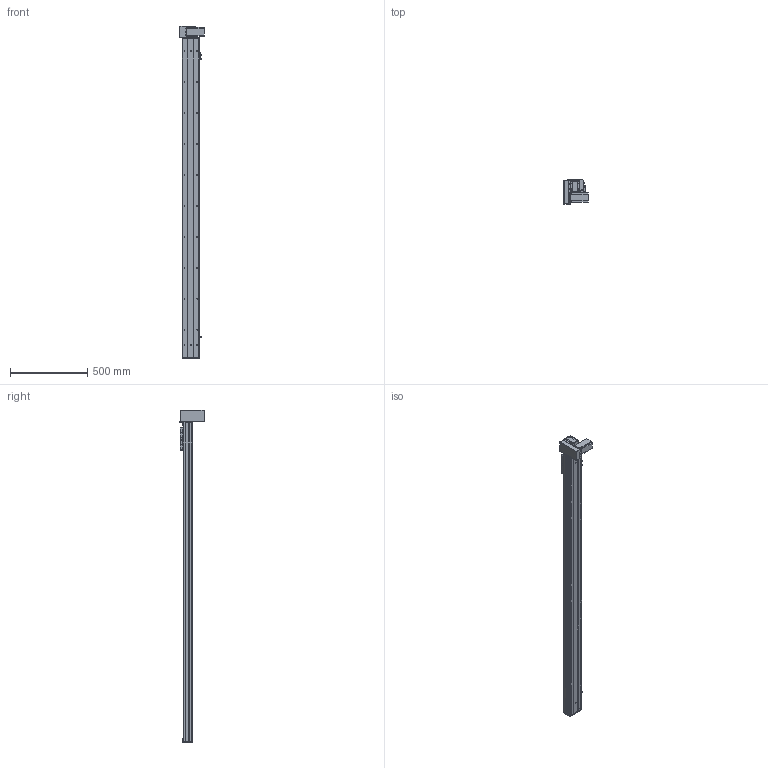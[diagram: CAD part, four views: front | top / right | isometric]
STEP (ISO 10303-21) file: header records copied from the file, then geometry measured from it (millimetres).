
FILE_DESCRIPTION (( 'STEP AP203' ), '1' );
FILE_NAME ('Y10CB-D90-S1800-BM-P400W.STEP', '2020-02-17T01:57:20', ( '微软用户' ), ( '微软中国' ), 'SwSTEP 2.0', 'SolidWorks 2017', '' );
FILE_SCHEMA (( 'CONFIG_CONTROL_DESIGN' ));
Length unit declared in the file: millimetre
Products named in the file (18): Y10B--々湍喘謫眊--666; 0B-埴倛裔啣; 00B-俋欶BM--; 10CB-詩湍-; Y10B-耜蚾蟀諉啣----; Y10CB- 掛极耜裔啣-毀---; 0CB-雄赽釱---; Y10CB-D90-S1800-BM-P400W; Y10C---詩湍揤啣; 0Cb-俋欶---; 10CB9-掛极; Y10B-々湍喘謫眊楊擘啣--; 10CB-耜裔; 0B-萇儂楊擘啣; Y135C-陔俋离換覜結え-; san松下电机400不带刹车----; Y100-135俋离換覜ん--; 0B-源倛裔啣
Assembly tree (21 placements, depth 2):
  Y10CB-D90-S1800-BM-P400W
    0CB-雄赽釱---
    0Cb-俋欶---
    Y10B-々湍喘謫眊楊擘啣--
    0B-萇儂楊擘啣
    san松下电机400不带刹车----
    0B-源倛裔啣
    0B-埴倛裔啣
    10CB-詩湍-
    Y10CB- 掛极耜裔啣-毀---  x2
    Y10C---詩湍揤啣  x2
    10CB9-掛极
    10CB-耜裔
    Y135C-陔俋离換覜結え-
    Y100-135俋离換覜ん--  x3
    Y10B--々湍喘謫眊--666
    00B-俋欶BM--
    Y10B-耜蚾蟀諉啣----
Bounding box: 157 x 156 x 2146 mm (x, y, z)
Volume: 4531852.5 mm3; surface area: 2115871.5 mm2
Topology: 21 solids, 21 shells, 1038 faces, 2803 edges, 1826 vertices
Faces by surface type: cylinder 529, plane 485, cone 24
Entity records: 32912 total; most frequent: CARTESIAN_POINT 6061, DIRECTION 5270, ORIENTED_EDGE 5076, EDGE_CURVE 2538, AXIS2_PLACEMENT_3D 1885, VERTEX_POINT 1652, LINE 1500, VECTOR 1500
